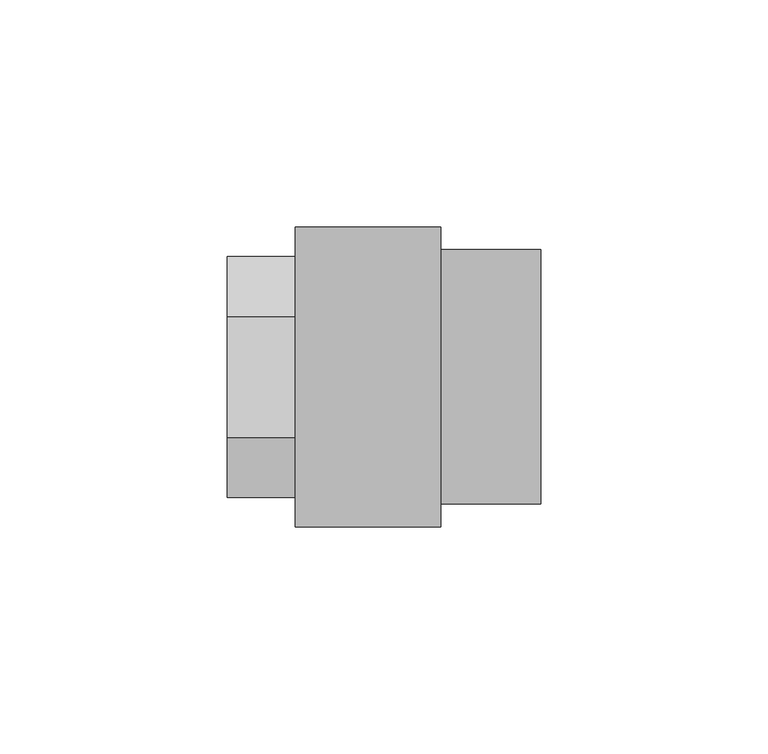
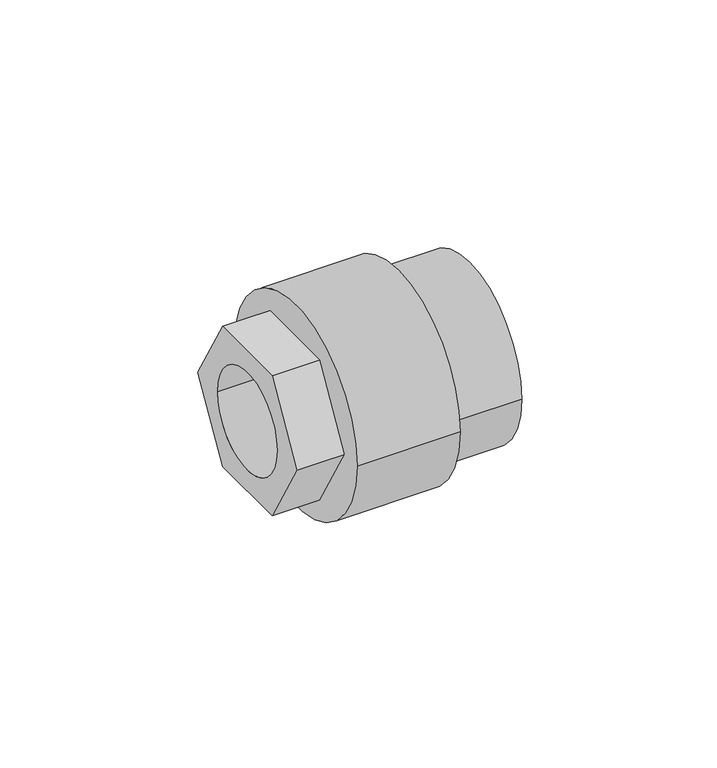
"""IFC4 building model written with IfcOpenShell, lengths in millimetres: pipe fitting geometry, NIRON RED termofusion roscado enlace rosca hembra hexagonal : Estándar."""

from ifc_helpers import new_model, si_unit, frame, origin, place, context, project, spatial, polyline, circle_curve, source, transform, mapped, element, save
from ifc_brep_helpers import plane_surface, cylinder_surface, revolved_surface, advanced_brep


def pipe_fitting_0dbf1990(model_context):
    return source(origin(), model_context, "Body", "AdvancedBrep", [
        advanced_brep(
        [(47.0, 33.0, 0.0), (47.0, -33.0, 0.0), (15.0, 33.0, 0.0), (15.0, -33.0, 0.0), (15.0, -16.0, 0.0), (15.0, 16.0, 0.0), (21.4, 16.0, 0.0), (21.4, -16.0, 0.0)],
        [
            (0, 1, circle_curve(frame((47.0, 0.0, 0.0), z_axis=(1.0, 0.0, 0.0), x_axis=(0.0, -1.0, 0.0)), 33.0)),
            (1, 0, circle_curve(frame((47.0, 0.0, 0.0), z_axis=(1.0, 0.0, 0.0), x_axis=(0.0, -1.0, 0.0)), 33.0)),
            (2, 3, circle_curve(frame((15.0, 0.0, 0.0), z_axis=(-1.0, 0.0, 0.0), x_axis=(0.0, -1.0, 0.0)), 33.0)),
            (3, 2, circle_curve(frame((15.0, 0.0, 0.0), z_axis=(-1.0, 0.0, 0.0), x_axis=(0.0, -1.0, 0.0)), 33.0)),
            (4, 5, circle_curve(frame((15.0, 0.0, 0.0), z_axis=(1.0, 0.0, 0.0), x_axis=(0.0, -1.0, 0.0)), 16.0)),
            (5, 4, circle_curve(frame((15.0, 0.0, 0.0), z_axis=(1.0, 0.0, 0.0), x_axis=(0.0, -1.0, 0.0)), 16.0)),
            (1, 3),
            (2, 0),
            (6, 7, circle_curve(frame((21.4, 0.0, 0.0), z_axis=(-1.0, 0.0, 0.0), x_axis=(0.0, -1.0, 0.0)), 16.0)),
            (7, 6, circle_curve(frame((21.4, 0.0, 0.0), z_axis=(-1.0, 0.0, 0.0), x_axis=(0.0, -1.0, 0.0)), 16.0)),
            (6, 5),
            (4, 7),
        ],
        [
            plane_surface(frame((47.0, -33.0, 0.0), z_axis=(1.0, 0.0, 0.0), x_axis=(0.0, 0.0, -1.0))),
            plane_surface(frame((15.0, -33.0, 0.0), z_axis=(-1.0, 0.0, 0.0), x_axis=(0.0, 0.0, 1.0))),
            cylinder_surface(frame((47.0, 0.0, 0.0), z_axis=(-1.0, 0.0, 0.0), x_axis=(0.0, -1.0, 0.0)), 33.0),
            plane_surface(frame((21.4, -16.0, 0.0), z_axis=(-1.0, 0.0, 0.0), x_axis=(0.0, 0.0, -1.0))),
            revolved_surface(polyline([(15.0, -16.0, 0.0), (21.4, -16.0, 0.0)]), (21.4, 0.0, 0.0), (-1.0, 0.0, 0.0)),
        ],
        [
            (0, [[1, 2]]),
            (1, [[3, 4], [5, 6]]),
            (2, [[-2, 7, -3, 8]]),
            (2, [[-1, -8, -4, -7]]),
            (3, [[9, 10]]),
            (4, [[-9, 11, -5, 12]]),
            (4, [[-10, -12, -6, -11]]),
        ],
    ),
        advanced_brep(
        [(15.0, 28.0, 0.0), (15.0, -28.0, 0.0), (15.0, -16.0, 0.0), (15.0, 16.0, 0.0), (69.0, 28.0, 0.0), (69.0, -28.0, 0.0), (21.4, 16.0, 0.0), (21.4, -16.0, 0.0)],
        [
            (0, 1, circle_curve(frame((15.0, 0.0, 0.0), z_axis=(-1.0, 0.0, 0.0), x_axis=(0.0, -1.0, 0.0)), 28.0)),
            (1, 0, circle_curve(frame((15.0, 0.0, 0.0), z_axis=(-1.0, 0.0, 0.0), x_axis=(0.0, -1.0, 0.0)), 28.0)),
            (2, 3, circle_curve(frame((15.0, 0.0, 0.0), z_axis=(1.0, 0.0, 0.0), x_axis=(0.0, -1.0, 0.0)), 16.0)),
            (3, 2, circle_curve(frame((15.0, 0.0, 0.0), z_axis=(1.0, 0.0, 0.0), x_axis=(0.0, -1.0, 0.0)), 16.0)),
            (4, 5, circle_curve(frame((69.0, 0.0, 0.0), z_axis=(1.0, 0.0, 0.0), x_axis=(0.0, -1.0, 0.0)), 28.0)),
            (5, 4, circle_curve(frame((69.0, 0.0, 0.0), z_axis=(1.0, 0.0, 0.0), x_axis=(0.0, -1.0, 0.0)), 28.0)),
            (0, 4),
            (5, 1),
            (6, 7, circle_curve(frame((21.4, 0.0, 0.0), z_axis=(-1.0, 0.0, 0.0), x_axis=(0.0, -1.0, 0.0)), 16.0)),
            (7, 6, circle_curve(frame((21.4, 0.0, 0.0), z_axis=(-1.0, 0.0, 0.0), x_axis=(0.0, -1.0, 0.0)), 16.0)),
            (6, 3),
            (2, 7),
        ],
        [
            plane_surface(frame((15.0, -28.0, 0.0), z_axis=(-1.0, 0.0, 0.0), x_axis=(0.0, 0.0, 1.0))),
            plane_surface(frame((69.0, -28.0, 0.0), z_axis=(1.0, 0.0, 0.0), x_axis=(0.0, 0.0, -1.0))),
            cylinder_surface(frame((69.0, 0.0, 0.0), z_axis=(-1.0, 0.0, 0.0), x_axis=(0.0, -1.0, 0.0)), 28.0),
            plane_surface(frame((21.4, -16.0, 0.0), z_axis=(-1.0, 0.0, 0.0), x_axis=(0.0, 0.0, -1.0))),
            revolved_surface(polyline([(15.0, -16.0, 0.0), (21.4, -16.0, 0.0)]), (21.4, 0.0, 0.0), (-1.0, 0.0, 0.0)),
        ],
        [
            (0, [[1, 2], [3, 4]]),
            (1, [[5, 6]]),
            (2, [[-1, 7, -6, 8]]),
            (2, [[-2, -8, -5, -7]]),
            (3, [[9, 10]]),
            (4, [[-9, 11, -3, 12]]),
            (4, [[-10, -12, -4, -11]]),
        ],
    ),
        advanced_brep(
        [(45.0, -13.2790562, -23.0), (45.0, 13.2790562, -23.0), (45.0, 26.5581124, 0.0), (45.0, 13.2790562, 23.0), (45.0, -13.2790562, 23.0), (45.0, -26.5581124, 0.0), (0.0, -13.2790562, -23.0), (0.0, -26.5581124, 0.0), (0.0, -13.2790562, 23.0), (0.0, 13.2790562, 23.0), (0.0, 26.5581124, 0.0), (0.0, 13.2790562, -23.0), (0.0, -16.0, 0.0), (0.0, 16.0, 0.0), (21.4, 16.0, 0.0), (21.4, -16.0, 0.0)],
        [
            (0, 1),
            (1, 2),
            (2, 3),
            (3, 4),
            (4, 5),
            (5, 0),
            (6, 7),
            (7, 8),
            (8, 9),
            (9, 10),
            (10, 11),
            (11, 6),
            (12, 13, circle_curve(frame((0.0, 0.0, 0.0), z_axis=(1.0, 0.0, 0.0), x_axis=(0.0, -1.0, 0.0)), 16.0)),
            (13, 12, circle_curve(frame((0.0, 0.0, 0.0), z_axis=(1.0, 0.0, 0.0), x_axis=(0.0, -1.0, 0.0)), 16.0)),
            (0, 6),
            (11, 1),
            (10, 2),
            (9, 3),
            (8, 4),
            (7, 5),
            (14, 15, circle_curve(frame((21.4, 0.0, 0.0), z_axis=(-1.0, 0.0, 0.0), x_axis=(0.0, -1.0, 0.0)), 16.0)),
            (15, 14, circle_curve(frame((21.4, 0.0, 0.0), z_axis=(-1.0, 0.0, 0.0), x_axis=(0.0, -1.0, 0.0)), 16.0)),
            (14, 13),
            (12, 15),
        ],
        [
            plane_surface(frame((45.0, 0.0, 0.0), z_axis=(1.0, 0.0, 0.0), x_axis=(0.0, 0.0, 1.0))),
            plane_surface(frame((0.0, 0.0, 0.0), z_axis=(-1.0, 0.0, 0.0), x_axis=(0.0, 0.0, 1.0))),
            plane_surface(frame((45.0, -13.2790562, -23.0), z_axis=(0.0, 0.0, -1.0), x_axis=(-1.0, 0.0, 0.0))),
            plane_surface(frame((45.0, 13.2790562, -23.0), z_axis=(0.0, 0.8660254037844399, -0.49999999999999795), x_axis=(-1.0, 0.0, 0.0))),
            plane_surface(frame((45.0, 26.5581124, 0.0), z_axis=(0.0, 0.866025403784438, 0.5000000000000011), x_axis=(-1.0, 0.0, 0.0))),
            plane_surface(frame((45.0, 13.2790562, 23.0), z_axis=(0.0, 0.0, 1.0), x_axis=(-1.0, 0.0, 0.0))),
            plane_surface(frame((45.0, -13.2790562, 23.0), z_axis=(0.0, -0.8660254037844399, 0.4999999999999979), x_axis=(-1.0, 0.0, 0.0))),
            plane_surface(frame((45.0, -26.5581124, 0.0), z_axis=(0.0, -0.866025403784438, -0.5000000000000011), x_axis=(-1.0, 0.0, 0.0))),
            plane_surface(frame((21.4, -16.0, 0.0), z_axis=(-1.0, 0.0, 0.0), x_axis=(0.0, 0.0, -1.0))),
            revolved_surface(polyline([(0.0, -16.0, 0.0), (21.4, -16.0, 0.0)]), (21.4, 0.0, 0.0), (-1.0, 0.0, 0.0)),
        ],
        [
            (0, [[1, 2, 3, 4, 5, 6]]),
            (1, [[7, 8, 9, 10, 11, 12], [13, 14]]),
            (2, [[-1, 15, -12, 16]]),
            (3, [[-2, -16, -11, 17]]),
            (4, [[-3, -17, -10, 18]]),
            (5, [[-4, -18, -9, 19]]),
            (6, [[-5, -19, -8, 20]]),
            (7, [[-6, -20, -7, -15]]),
            (8, [[21, 22]]),
            (9, [[-21, 23, -13, 24]]),
            (9, [[-22, -24, -14, -23]]),
        ],
    ),
    ])


if __name__ == "__main__":
    model = new_model("IFC4")
    model_context = context("Model", 3, world=origin())
    ifc_project = project(units=[si_unit("LENGTHUNIT", "METRE", prefix="MILLI")], contexts=[model_context])
    site = spatial("IfcSite", under=ifc_project)
    building = spatial("IfcBuilding", under=site)
    placement = place(None, origin())
    pipe_fitting_shape = pipe_fitting_0dbf1990(model_context)
    element("IfcPipeFitting", 1, ObjectType="NIRON RED termofusion roscado enlace rosca hembra hexagonal : Estándar", at=placement, inside=building, context=model_context, shape_type="MappedRepresentation", body=[
        mapped(pipe_fitting_shape, transform((0.0, 0.0, 0.0), x_axis=(1.0, 0.0, 0.0), y_axis=(0.0, 1.0, 0.0), z_axis=(0.0, 0.0, 1.0))),
    ])
    save(model, "model.ifc")
